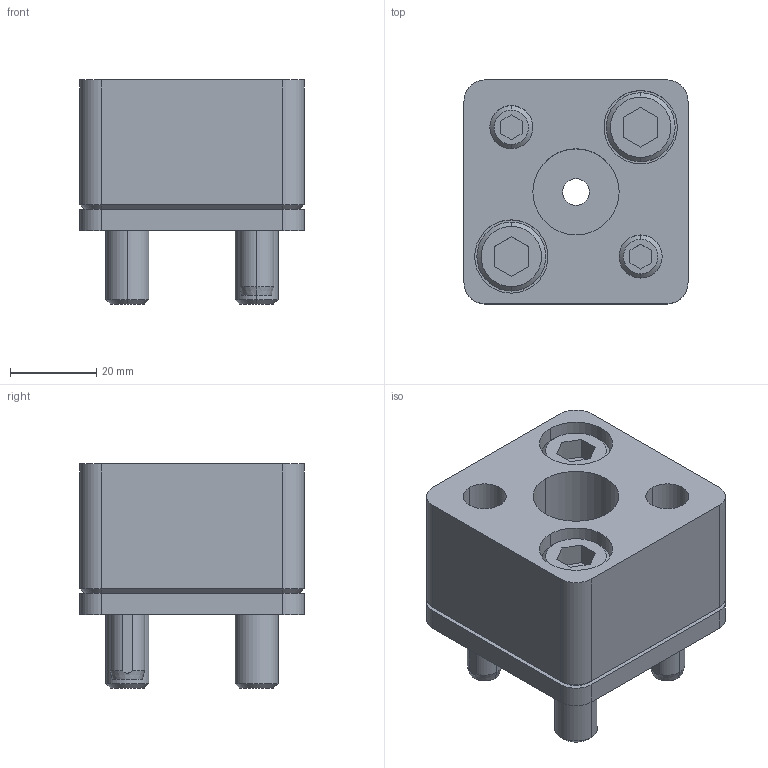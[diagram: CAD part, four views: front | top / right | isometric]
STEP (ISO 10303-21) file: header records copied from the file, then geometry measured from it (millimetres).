
FILE_DESCRIPTION(/* description */ (''),/* implementation_level */ '2;1');
FILE_NAME(/* name */ '3d_hsr-ap20_02780_r00.stp',/* time_stamp */ '2011-01-10T14:14:35+09:00',/* author */ ('MISUMI'),/* organization */ (''),/* preprocessor_version */ 'ST-DEVELOPER v11',/* originating_system */ 'UGS - NX 5.0',/* authorisation */ '');
FILE_SCHEMA (('CONFIG_CONTROL_DESIGN'));
Length unit declared in the file: millimetre
Products named in the file (1): 3d_hsr-ap20_02780_r00
Bounding box: 52 x 52 x 52 mm (x, y, z)
Volume: 82165.8 mm3; surface area: 29867.4 mm2
Topology: 8 solids, 8 shells, 163 faces, 362 edges, 230 vertices
Faces by surface type: plane 69, cylinder 64, cone 30
Entity records: 4678 total; most frequent: DIRECTION 840, CARTESIAN_POINT 816, ORIENTED_EDGE 724, EDGE_CURVE 362, AXIS2_PLACEMENT_3D 322, VERTEX_POINT 230, EDGE_LOOP 198, LINE 196
